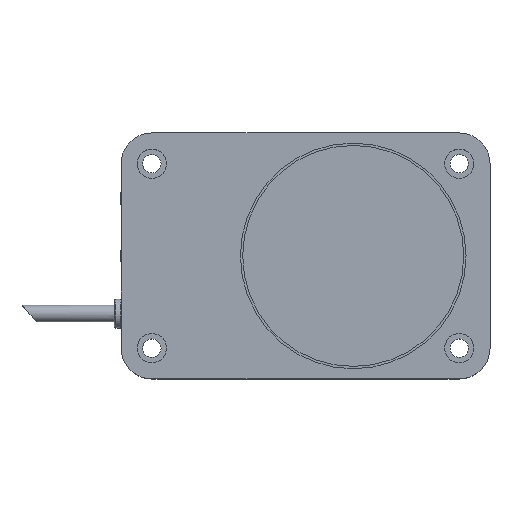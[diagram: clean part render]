
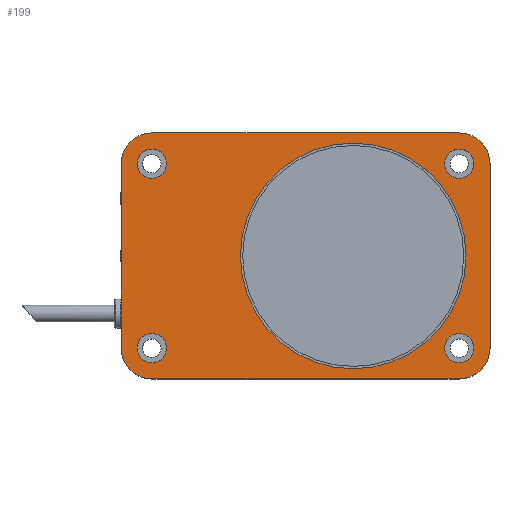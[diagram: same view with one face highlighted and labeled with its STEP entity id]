
A CAD part, top view. The second image highlights one B-rep face of the part: STEP entity #199.
In plain terms, the highlighted planar face has unit normal (0, 0, 1).
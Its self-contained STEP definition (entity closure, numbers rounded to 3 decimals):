
#199 = ADVANCED_FACE( '', ( #471, #472, #473, #474, #475, #476 ), #477, .T. );
#471 = FACE_BOUND( '', #748, .T. );
#472 = FACE_BOUND( '', #749, .T. );
#473 = FACE_BOUND( '', #750, .T. );
#474 = FACE_BOUND( '', #751, .T. );
#475 = FACE_BOUND( '', #752, .T. );
#476 = FACE_OUTER_BOUND( '', #753, .T. );
#477 = PLANE( '', #754 );
#748 = EDGE_LOOP( '', ( #1725, #1726 ) );
#749 = EDGE_LOOP( '', ( #1727, #1728 ) );
#750 = EDGE_LOOP( '', ( #1729, #1730 ) );
#751 = EDGE_LOOP( '', ( #1731, #1732 ) );
#752 = EDGE_LOOP( '', ( #1733, #1734 ) );
#753 = EDGE_LOOP( '', ( #1735, #1736, #1737, #1738, #1739, #1740, #1741, #1742 ) );
#754 = AXIS2_PLACEMENT_3D( '', #1743, #1744, #1745 );
#1725 = ORIENTED_EDGE( '', *, *, #1920, .T. );
#1726 = ORIENTED_EDGE( '', *, *, #1783, .T. );
#1727 = ORIENTED_EDGE( '', *, *, #1924, .T. );
#1728 = ORIENTED_EDGE( '', *, *, #1775, .T. );
#1729 = ORIENTED_EDGE( '', *, *, #1927, .T. );
#1730 = ORIENTED_EDGE( '', *, *, #1771, .T. );
#1731 = ORIENTED_EDGE( '', *, *, #1930, .T. );
#1732 = ORIENTED_EDGE( '', *, *, #1767, .T. );
#1733 = ORIENTED_EDGE( '', *, *, #1933, .T. );
#1734 = ORIENTED_EDGE( '', *, *, #1763, .T. );
#1735 = ORIENTED_EDGE( '', *, *, #2002, .F. );
#1736 = ORIENTED_EDGE( '', *, *, #1892, .F. );
#1737 = ORIENTED_EDGE( '', *, *, #1999, .F. );
#1738 = ORIENTED_EDGE( '', *, *, #1989, .F. );
#1739 = ORIENTED_EDGE( '', *, *, #1974, .F. );
#1740 = ORIENTED_EDGE( '', *, *, #1980, .F. );
#1741 = ORIENTED_EDGE( '', *, *, #1988, .F. );
#1742 = ORIENTED_EDGE( '', *, *, #1998, .F. );
#1743 = CARTESIAN_POINT( '', ( 0., 0., 16. ) );
#1744 = DIRECTION( '', ( 0., 0., 1. ) );
#1745 = DIRECTION( '', ( 1., 0., 0. ) );
#1763 = EDGE_CURVE( '', #2089, #2086, #2090, .T. );
#1767 = EDGE_CURVE( '', #2097, #2094, #2098, .T. );
#1771 = EDGE_CURVE( '', #2105, #2102, #2106, .T. );
#1775 = EDGE_CURVE( '', #2113, #2110, #2114, .T. );
#1783 = EDGE_CURVE( '', #2129, #2126, #2130, .T. );
#1892 = EDGE_CURVE( '', #2317, #2319, #2320, .T. );
#1920 = EDGE_CURVE( '', #2126, #2129, #2356, .T. );
#1924 = EDGE_CURVE( '', #2110, #2113, #2360, .T. );
#1927 = EDGE_CURVE( '', #2102, #2105, #2363, .T. );
#1930 = EDGE_CURVE( '', #2094, #2097, #2366, .T. );
#1933 = EDGE_CURVE( '', #2086, #2089, #2369, .T. );
#1974 = EDGE_CURVE( '', #2439, #2441, #2442, .T. );
#1980 = EDGE_CURVE( '', #2449, #2439, #2451, .T. );
#1988 = EDGE_CURVE( '', #2463, #2449, #2465, .T. );
#1989 = EDGE_CURVE( '', #2441, #2466, #2467, .T. );
#1998 = EDGE_CURVE( '', #2480, #2463, #2482, .T. );
#1999 = EDGE_CURVE( '', #2466, #2317, #2483, .T. );
#2002 = EDGE_CURVE( '', #2319, #2480, #2487, .T. );
#2086 = VERTEX_POINT( '', #2606 );
#2089 = VERTEX_POINT( '', #2610 );
#2090 = CIRCLE( '', #2611, 4.75 );
#2094 = VERTEX_POINT( '', #2616 );
#2097 = VERTEX_POINT( '', #2620 );
#2098 = CIRCLE( '', #2621, 4.75 );
#2102 = VERTEX_POINT( '', #2626 );
#2105 = VERTEX_POINT( '', #2630 );
#2106 = CIRCLE( '', #2631, 4.75 );
#2110 = VERTEX_POINT( '', #2636 );
#2113 = VERTEX_POINT( '', #2640 );
#2114 = CIRCLE( '', #2641, 4.75 );
#2126 = VERTEX_POINT( '', #2656 );
#2129 = VERTEX_POINT( '', #2660 );
#2130 = CIRCLE( '', #2661, 36.7 );
#2317 = VERTEX_POINT( '', #2880 );
#2319 = VERTEX_POINT( '', #2883 );
#2320 = LINE( '', #2884, #2885 );
#2356 = CIRCLE( '', #2934, 36.7 );
#2360 = CIRCLE( '', #2938, 4.75 );
#2363 = CIRCLE( '', #2941, 4.75 );
#2366 = CIRCLE( '', #2944, 4.75 );
#2369 = CIRCLE( '', #2947, 4.75 );
#2439 = VERTEX_POINT( '', #3040 );
#2441 = VERTEX_POINT( '', #3043 );
#2442 = CIRCLE( '', #3044, 10. );
#2449 = VERTEX_POINT( '', #3054 );
#2451 = LINE( '', #3057, #3058 );
#2463 = VERTEX_POINT( '', #3076 );
#2465 = CIRCLE( '', #3079, 10. );
#2466 = VERTEX_POINT( '', #3080 );
#2467 = LINE( '', #3081, #3082 );
#2480 = VERTEX_POINT( '', #3102 );
#2482 = LINE( '', #3105, #3106 );
#2483 = CIRCLE( '', #3107, 10. );
#2487 = CIRCLE( '', #3112, 10. );
#2606 = CARTESIAN_POINT( '', ( 10., 53.5, 16. ) );
#2610 = CARTESIAN_POINT( '', ( 10., 44., 16. ) );
#2611 = AXIS2_PLACEMENT_3D( '', #3261, #3262, #3263 );
#2616 = CARTESIAN_POINT( '', ( 110., -6.5, 16. ) );
#2620 = CARTESIAN_POINT( '', ( 110., -16., 16. ) );
#2621 = AXIS2_PLACEMENT_3D( '', #3269, #3270, #3271 );
#2626 = CARTESIAN_POINT( '', ( 110., 53.5, 16. ) );
#2630 = CARTESIAN_POINT( '', ( 110., 44., 16. ) );
#2631 = AXIS2_PLACEMENT_3D( '', #3277, #3278, #3279 );
#2636 = CARTESIAN_POINT( '', ( 10., -6.5, 16. ) );
#2640 = CARTESIAN_POINT( '', ( 10., -16., 16. ) );
#2641 = AXIS2_PLACEMENT_3D( '', #3285, #3286, #3287 );
#2656 = CARTESIAN_POINT( '', ( 75.5, 55.45, 16. ) );
#2660 = CARTESIAN_POINT( '', ( 75.5, -17.95, 16. ) );
#2661 = AXIS2_PLACEMENT_3D( '', #3301, #3302, #3303 );
#2880 = CARTESIAN_POINT( '', ( 0., -11.25, 16. ) );
#2883 = CARTESIAN_POINT( '', ( 0., 48.75, 16. ) );
#2884 = CARTESIAN_POINT( '', ( 0., 48.75, 16. ) );
#2885 = VECTOR( '', #3562, 1. );
#2934 = AXIS2_PLACEMENT_3D( '', #3618, #3619, #3620 );
#2938 = AXIS2_PLACEMENT_3D( '', #3630, #3631, #3632 );
#2941 = AXIS2_PLACEMENT_3D( '', #3639, #3640, #3641 );
#2944 = AXIS2_PLACEMENT_3D( '', #3648, #3649, #3650 );
#2947 = AXIS2_PLACEMENT_3D( '', #3657, #3658, #3659 );
#3040 = CARTESIAN_POINT( '', ( 120., -11.25, 16. ) );
#3043 = CARTESIAN_POINT( '', ( 110., -21.25, 16. ) );
#3044 = AXIS2_PLACEMENT_3D( '', #3732, #3733, #3734 );
#3054 = CARTESIAN_POINT( '', ( 120., 48.75, 16. ) );
#3057 = CARTESIAN_POINT( '', ( 120., -11.25, 16. ) );
#3058 = VECTOR( '', #3742, 1. );
#3076 = CARTESIAN_POINT( '', ( 110., 58.75, 16. ) );
#3079 = AXIS2_PLACEMENT_3D( '', #3750, #3751, #3752 );
#3080 = CARTESIAN_POINT( '', ( 10., -21.25, 16. ) );
#3081 = CARTESIAN_POINT( '', ( 10., -21.25, 16. ) );
#3082 = VECTOR( '', #3753, 1. );
#3102 = CARTESIAN_POINT( '', ( 10., 58.75, 16. ) );
#3105 = CARTESIAN_POINT( '', ( 110., 58.75, 16. ) );
#3106 = VECTOR( '', #3762, 1. );
#3107 = AXIS2_PLACEMENT_3D( '', #3763, #3764, #3765 );
#3112 = AXIS2_PLACEMENT_3D( '', #3770, #3771, #3772 );
#3261 = CARTESIAN_POINT( '', ( 10., 48.75, 16. ) );
#3262 = DIRECTION( '', ( 0., 0., -1. ) );
#3263 = DIRECTION( '', ( 0., 1., 0. ) );
#3269 = CARTESIAN_POINT( '', ( 110., -11.25, 16. ) );
#3270 = DIRECTION( '', ( 0., 0., -1. ) );
#3271 = DIRECTION( '', ( 0., 1., 0. ) );
#3277 = CARTESIAN_POINT( '', ( 110., 48.75, 16. ) );
#3278 = DIRECTION( '', ( 0., 0., -1. ) );
#3279 = DIRECTION( '', ( 0., 1., 0. ) );
#3285 = CARTESIAN_POINT( '', ( 10., -11.25, 16. ) );
#3286 = DIRECTION( '', ( 0., 0., -1. ) );
#3287 = DIRECTION( '', ( 0., 1., 0. ) );
#3301 = CARTESIAN_POINT( '', ( 75.5, 18.75, 16. ) );
#3302 = DIRECTION( '', ( 0., 0., -1. ) );
#3303 = DIRECTION( '', ( 0., 1., 0. ) );
#3562 = DIRECTION( '', ( 0., 1., 0. ) );
#3618 = CARTESIAN_POINT( '', ( 75.5, 18.75, 16. ) );
#3619 = DIRECTION( '', ( 0., 0., -1. ) );
#3620 = DIRECTION( '', ( 0., 1., 0. ) );
#3630 = CARTESIAN_POINT( '', ( 10., -11.25, 16. ) );
#3631 = DIRECTION( '', ( 0., 0., -1. ) );
#3632 = DIRECTION( '', ( 0., 1., 0. ) );
#3639 = CARTESIAN_POINT( '', ( 110., 48.75, 16. ) );
#3640 = DIRECTION( '', ( 0., 0., -1. ) );
#3641 = DIRECTION( '', ( 0., 1., 0. ) );
#3648 = CARTESIAN_POINT( '', ( 110., -11.25, 16. ) );
#3649 = DIRECTION( '', ( 0., 0., -1. ) );
#3650 = DIRECTION( '', ( 0., 1., 0. ) );
#3657 = CARTESIAN_POINT( '', ( 10., 48.75, 16. ) );
#3658 = DIRECTION( '', ( 0., 0., -1. ) );
#3659 = DIRECTION( '', ( 0., 1., 0. ) );
#3732 = CARTESIAN_POINT( '', ( 110., -11.25, 16. ) );
#3733 = DIRECTION( '', ( 0., 0., -1. ) );
#3734 = DIRECTION( '', ( 0., -1., 0. ) );
#3742 = DIRECTION( '', ( 0., -1., 0. ) );
#3750 = CARTESIAN_POINT( '', ( 110., 48.75, 16. ) );
#3751 = DIRECTION( '', ( 0., 0., -1. ) );
#3752 = DIRECTION( '', ( 1., 0., 0. ) );
#3753 = DIRECTION( '', ( -1., 0., 0. ) );
#3762 = DIRECTION( '', ( 1., 0., 0. ) );
#3763 = CARTESIAN_POINT( '', ( 10., -11.25, 16. ) );
#3764 = DIRECTION( '', ( 0., 0., -1. ) );
#3765 = DIRECTION( '', ( -1., 0., 0. ) );
#3770 = CARTESIAN_POINT( '', ( 10., 48.75, 16. ) );
#3771 = DIRECTION( '', ( 0., 0., -1. ) );
#3772 = DIRECTION( '', ( 0., 1., 0. ) );
